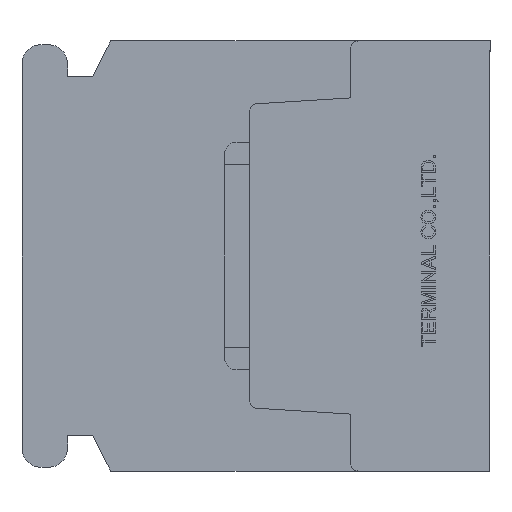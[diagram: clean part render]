
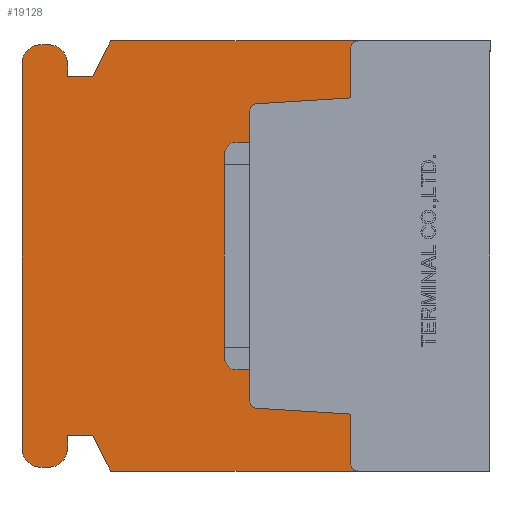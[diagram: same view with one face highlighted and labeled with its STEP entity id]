
A CAD part, left-side view. The second image highlights one B-rep face of the part: STEP entity #19128.
In plain terms, the highlighted planar face has unit normal (-1, 0, 0).
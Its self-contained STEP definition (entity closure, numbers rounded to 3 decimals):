
#1214=CIRCLE('',#20468,0.3);
#1216=CIRCLE('',#20472,0.3);
#1218=CIRCLE('',#20477,0.3);
#1220=CIRCLE('',#20480,0.3);
#1229=CIRCLE('',#20637,0.75);
#1230=CIRCLE('',#20638,0.75);
#1231=CIRCLE('',#20639,0.75);
#1232=CIRCLE('',#20640,0.75);
#1825=VERTEX_POINT('',#27200);
#1826=VERTEX_POINT('',#27202);
#1861=VERTEX_POINT('',#27276);
#1862=VERTEX_POINT('',#27278);
#2749=VERTEX_POINT('',#30316);
#2750=VERTEX_POINT('',#30317);
#2753=VERTEX_POINT('',#30325);
#2767=VERTEX_POINT('',#30355);
#2769=VERTEX_POINT('',#30361);
#2771=VERTEX_POINT('',#30367);
#2773=VERTEX_POINT('',#30373);
#2775=VERTEX_POINT('',#30382);
#3122=VERTEX_POINT('',#31924);
#3123=VERTEX_POINT('',#31926);
#3124=VERTEX_POINT('',#31928);
#3125=VERTEX_POINT('',#31930);
#3126=VERTEX_POINT('',#31932);
#3127=VERTEX_POINT('',#31934);
#3128=VERTEX_POINT('',#31936);
#3129=VERTEX_POINT('',#31938);
#3130=VERTEX_POINT('',#31940);
#3131=VERTEX_POINT('',#31942);
#3132=VERTEX_POINT('',#31944);
#3133=VERTEX_POINT('',#31946);
#3794=VECTOR('',#21757,1.);
#3831=VECTOR('',#21798,1.);
#4689=VECTOR('',#24223,1.);
#4706=VECTOR('',#24247,1.);
#4710=VECTOR('',#24258,1.);
#4713=VECTOR('',#24262,1.);
#4717=VECTOR('',#24279,1.);
#5130=VECTOR('',#24857,1.);
#5131=VECTOR('',#24858,1.);
#5132=VECTOR('',#24859,1.);
#5133=VECTOR('',#24862,1.);
#5134=VECTOR('',#24865,1.);
#5135=VECTOR('',#24868,1.);
#5136=VECTOR('',#24871,1.);
#5137=VECTOR('',#24872,1.);
#5138=VECTOR('',#24873,1.);
#5786=LINE('',#27201,#3794);
#5823=LINE('',#27277,#3831);
#6681=LINE('',#30315,#4689);
#6698=LINE('',#30354,#4706);
#6702=LINE('',#30366,#4710);
#6705=LINE('',#30372,#4713);
#6709=LINE('',#30387,#4717);
#7122=LINE('',#31923,#5130);
#7123=LINE('',#31925,#5131);
#7124=LINE('',#31927,#5132);
#7125=LINE('',#31931,#5133);
#7126=LINE('',#31935,#5134);
#7127=LINE('',#31939,#5135);
#7128=LINE('',#31943,#5136);
#7129=LINE('',#31945,#5137);
#7130=LINE('',#31947,#5138);
#7969=EDGE_CURVE('',#1825,#1826,#5786,.T.);
#8007=EDGE_CURVE('',#1861,#1862,#5823,.T.);
#9366=EDGE_CURVE('',#2749,#2750,#6681,.T.);
#9370=EDGE_CURVE('',#2753,#2749,#1214,.T.);
#9385=EDGE_CURVE('',#2767,#2753,#6698,.T.);
#9388=EDGE_CURVE('',#2769,#2767,#1216,.T.);
#9391=EDGE_CURVE('',#2771,#2769,#6702,.T.);
#9394=EDGE_CURVE('',#2773,#2771,#6705,.T.);
#9397=EDGE_CURVE('',#1826,#2773,#1218,.T.);
#9399=EDGE_CURVE('',#2775,#1861,#1220,.T.);
#9402=EDGE_CURVE('',#2750,#2775,#6709,.T.);
#9926=EDGE_CURVE('',#3122,#1825,#7122,.T.);
#9927=EDGE_CURVE('',#3123,#3122,#7123,.T.);
#9928=EDGE_CURVE('',#3124,#3123,#7124,.T.);
#9929=EDGE_CURVE('',#3125,#3124,#1229,.T.);
#9930=EDGE_CURVE('',#3126,#3125,#7125,.T.);
#9931=EDGE_CURVE('',#3127,#3126,#1230,.T.);
#9932=EDGE_CURVE('',#3128,#3127,#7126,.T.);
#9933=EDGE_CURVE('',#3129,#3128,#1231,.T.);
#9934=EDGE_CURVE('',#3130,#3129,#7127,.T.);
#9935=EDGE_CURVE('',#3131,#3130,#1232,.T.);
#9936=EDGE_CURVE('',#3132,#3131,#7128,.T.);
#9937=EDGE_CURVE('',#3133,#3132,#7129,.T.);
#9938=EDGE_CURVE('',#1862,#3133,#7130,.T.);
#15492=ORIENTED_EDGE('',*,*,#9397,.F.);
#15493=ORIENTED_EDGE('',*,*,#7969,.F.);
#15494=ORIENTED_EDGE('',*,*,#9926,.F.);
#15495=ORIENTED_EDGE('',*,*,#9927,.F.);
#15496=ORIENTED_EDGE('',*,*,#9928,.F.);
#15497=ORIENTED_EDGE('',*,*,#9929,.F.);
#15498=ORIENTED_EDGE('',*,*,#9930,.F.);
#15499=ORIENTED_EDGE('',*,*,#9931,.F.);
#15500=ORIENTED_EDGE('',*,*,#9932,.F.);
#15501=ORIENTED_EDGE('',*,*,#9933,.F.);
#15502=ORIENTED_EDGE('',*,*,#9934,.F.);
#15503=ORIENTED_EDGE('',*,*,#9935,.F.);
#15504=ORIENTED_EDGE('',*,*,#9936,.F.);
#15505=ORIENTED_EDGE('',*,*,#9937,.F.);
#15506=ORIENTED_EDGE('',*,*,#9938,.F.);
#15507=ORIENTED_EDGE('',*,*,#8007,.F.);
#15508=ORIENTED_EDGE('',*,*,#9399,.F.);
#15509=ORIENTED_EDGE('',*,*,#9402,.F.);
#15510=ORIENTED_EDGE('',*,*,#9366,.F.);
#15511=ORIENTED_EDGE('',*,*,#9370,.F.);
#15512=ORIENTED_EDGE('',*,*,#9385,.F.);
#15513=ORIENTED_EDGE('',*,*,#9388,.F.);
#15514=ORIENTED_EDGE('',*,*,#9391,.F.);
#15515=ORIENTED_EDGE('',*,*,#9394,.F.);
#16827=EDGE_LOOP('',(#15492,#15493,#15494,#15495,#15496,#15497,#15498,#15499,
#15500,#15501,#15502,#15503,#15504,#15505,#15506,#15507,#15508,#15509,#15510,
#15511,#15512,#15513,#15514,#15515));
#18039=FACE_BOUND('',#16827,.T.);
#19128=ADVANCED_FACE('',(#18039),#32829,.F.);
#20468=AXIS2_PLACEMENT_3D('',#30324,#24229,#24230);
#20472=AXIS2_PLACEMENT_3D('',#30360,#24252,#24253);
#20477=AXIS2_PLACEMENT_3D('',#30378,#24267,#24268);
#20480=AXIS2_PLACEMENT_3D('',#30381,#24273,#24274);
#20636=AXIS2_PLACEMENT_3D('',#31922,#24856,$);
#20637=AXIS2_PLACEMENT_3D('',#31929,#24860,#24861);
#20638=AXIS2_PLACEMENT_3D('',#31933,#24863,#24864);
#20639=AXIS2_PLACEMENT_3D('',#31937,#24866,#24867);
#20640=AXIS2_PLACEMENT_3D('',#31941,#24869,#24870);
#21757=DIRECTION('',(0.,-1.,0.));
#21798=DIRECTION('',(0.,1.,0.));
#24223=DIRECTION('',(0.,-0.998,-0.062));
#24229=DIRECTION('',(-1.,0.,0.));
#24230=DIRECTION('',(0.,0.,-0.3));
#24247=DIRECTION('',(0.,0.,-1.));
#24252=DIRECTION('',(-1.,0.,0.));
#24253=DIRECTION('',(0.,0.,-0.3));
#24258=DIRECTION('',(0.,0.998,-0.062));
#24262=DIRECTION('',(0.,0.,-1.));
#24267=DIRECTION('',(-1.,0.,0.));
#24268=DIRECTION('',(0.,0.,-0.3));
#24273=DIRECTION('',(-1.,0.,0.));
#24274=DIRECTION('',(0.,0.,-0.3));
#24279=DIRECTION('',(0.,0.,-1.));
#24856=DIRECTION('',(1.,0.,0.));
#24857=DIRECTION('',(0.,-0.447,0.894));
#24858=DIRECTION('',(0.,-1.,0.));
#24859=DIRECTION('',(0.,0.,-1.));
#24860=DIRECTION('',(1.,0.,0.));
#24861=DIRECTION('',(0.,0.,-0.75));
#24862=DIRECTION('',(0.,-1.,0.));
#24863=DIRECTION('',(1.,0.,0.));
#24864=DIRECTION('',(0.,0.,-0.75));
#24865=DIRECTION('',(0.,0.,1.));
#24866=DIRECTION('',(1.,0.,0.));
#24867=DIRECTION('',(0.,0.,-0.75));
#24868=DIRECTION('',(0.,1.,0.));
#24869=DIRECTION('',(1.,0.,0.));
#24870=DIRECTION('',(0.,0.,-0.75));
#24871=DIRECTION('',(0.,0.,-1.));
#24872=DIRECTION('',(0.,1.,0.));
#24873=DIRECTION('',(0.,0.447,0.894));
#27200=CARTESIAN_POINT('',(0.,15.,8.5));
#27201=CARTESIAN_POINT('',(0.,15.,8.5));
#27202=CARTESIAN_POINT('',(0.,5.2,8.5));
#27276=CARTESIAN_POINT('',(0.,5.2,-8.5));
#27277=CARTESIAN_POINT('',(0.,0.,-8.5));
#27278=CARTESIAN_POINT('',(0.,15.,-8.5));
#30315=CARTESIAN_POINT('',(0.,9.219,-6.018));
#30316=CARTESIAN_POINT('',(0.,9.219,-6.018));
#30317=CARTESIAN_POINT('',(0.,5.5,-6.25));
#30324=CARTESIAN_POINT('',(0.,9.2,-5.718));
#30325=CARTESIAN_POINT('',(0.,9.5,-5.718));
#30354=CARTESIAN_POINT('',(0.,9.5,5.718));
#30355=CARTESIAN_POINT('',(0.,9.5,5.718));
#30360=CARTESIAN_POINT('',(0.,9.2,5.718));
#30361=CARTESIAN_POINT('',(0.,9.219,6.018));
#30366=CARTESIAN_POINT('',(0.,5.5,6.25));
#30367=CARTESIAN_POINT('',(0.,5.5,6.25));
#30372=CARTESIAN_POINT('',(0.,5.5,8.2));
#30373=CARTESIAN_POINT('',(0.,5.5,8.2));
#30378=CARTESIAN_POINT('',(0.,5.2,8.2));
#30381=CARTESIAN_POINT('',(0.,5.2,-8.2));
#30382=CARTESIAN_POINT('',(0.,5.5,-8.2));
#30387=CARTESIAN_POINT('',(0.,5.5,-6.25));
#31922=CARTESIAN_POINT('',(0.,9.463,0.));
#31923=CARTESIAN_POINT('',(0.,15.7,7.1));
#31924=CARTESIAN_POINT('',(0.,15.7,7.1));
#31925=CARTESIAN_POINT('',(0.,16.7,7.1));
#31926=CARTESIAN_POINT('',(0.,16.7,7.1));
#31927=CARTESIAN_POINT('',(0.,16.7,7.6));
#31928=CARTESIAN_POINT('',(0.,16.7,7.6));
#31929=CARTESIAN_POINT('',(0.,17.45,7.6));
#31930=CARTESIAN_POINT('',(0.,17.45,8.35));
#31931=CARTESIAN_POINT('',(0.,17.75,8.35));
#31932=CARTESIAN_POINT('',(0.,17.75,8.35));
#31933=CARTESIAN_POINT('',(0.,17.75,7.6));
#31934=CARTESIAN_POINT('',(0.,18.5,7.6));
#31935=CARTESIAN_POINT('',(0.,18.5,-7.6));
#31936=CARTESIAN_POINT('',(0.,18.5,-7.6));
#31937=CARTESIAN_POINT('',(0.,17.75,-7.6));
#31938=CARTESIAN_POINT('',(0.,17.75,-8.35));
#31939=CARTESIAN_POINT('',(0.,17.45,-8.35));
#31940=CARTESIAN_POINT('',(0.,17.45,-8.35));
#31941=CARTESIAN_POINT('',(0.,17.45,-7.6));
#31942=CARTESIAN_POINT('',(0.,16.7,-7.6));
#31943=CARTESIAN_POINT('',(0.,16.7,-7.1));
#31944=CARTESIAN_POINT('',(0.,16.7,-7.1));
#31945=CARTESIAN_POINT('',(0.,15.7,-7.1));
#31946=CARTESIAN_POINT('',(0.,15.7,-7.1));
#31947=CARTESIAN_POINT('',(0.,15.,-8.5));
#32829=PLANE('',#20636);
